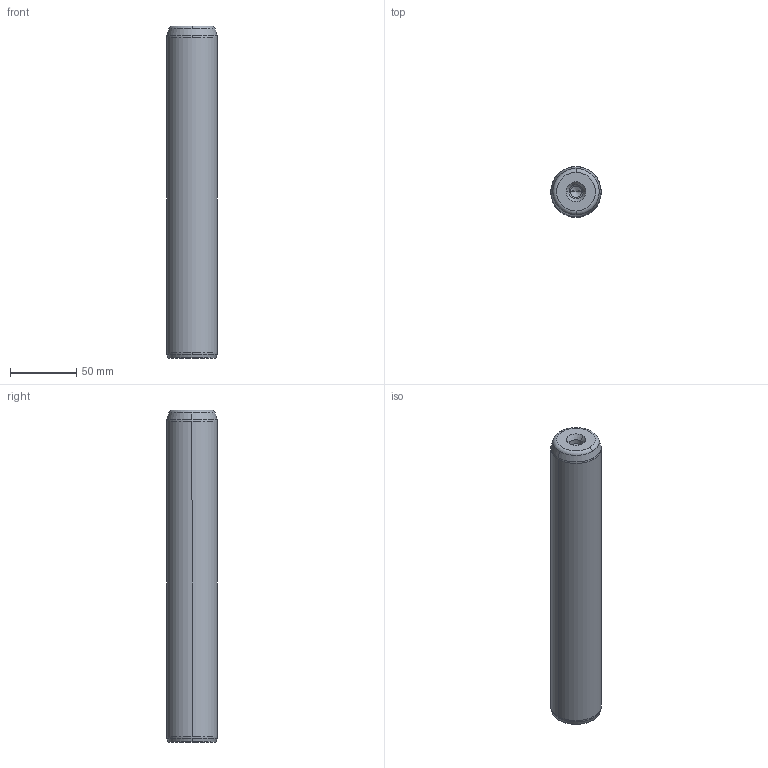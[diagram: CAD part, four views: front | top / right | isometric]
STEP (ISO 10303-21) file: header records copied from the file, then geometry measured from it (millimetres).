
FILE_DESCRIPTION((''),'2;1');
FILE_NAME('P10_038_250.stp','2008-12-23T15:15:19',(''),(''),'Mechanical Desktop 2009','Mechanical Desktop 2009',', , ');
FILE_SCHEMA(('CONFIG_CONTROL_DESIGN'));
Length unit declared in the file: millimetre
Products named in the file (5): Product; ProductAA; blmdl1; ProductA; blmdl1A
Assembly tree (2 placements, depth 3):
  Product
    ProductAA
      blmdl1
  ProductA
  blmdl1A
Bounding box: 38 x 38 x 250 mm (x, y, z)
Volume: 280095.5 mm3; surface area: 32465.4 mm2
Topology: 1 solids, 1 shells, 26 faces, 66 edges, 41 vertices
Faces by surface type: cone 10, torus 8, cylinder 6, plane 2
Entity records: 1012 total; most frequent: DIRECTION 170, CARTESIAN_POINT 134, ORIENTED_EDGE 128, AXIS2_PLACEMENT_3D 77, EDGE_CURVE 64, CIRCLE 48, VERTEX_POINT 41, EDGE_LOOP 27
